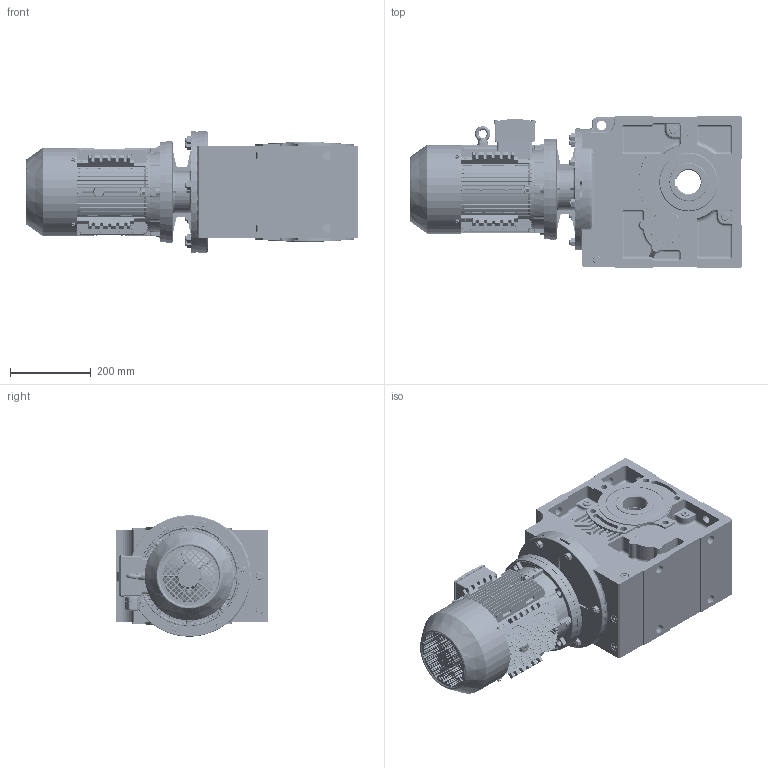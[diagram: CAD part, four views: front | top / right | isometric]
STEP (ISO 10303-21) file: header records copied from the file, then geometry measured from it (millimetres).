
FILE_DESCRIPTION (( 'STEP AP203' ), '1' );
FILE_NAME ('KV_573_0_MX3-112.STEP', '2018-11-21T09:39:33', ( '' ), ( '' ), 'SwSTEP 2.0', 'SolidWorks 2012', '' );
FILE_SCHEMA (( 'CONFIG_CONTROL_DESIGN' ));
Products named in the file (27): KV_573_0_MX3-112; DMX-IE3 112  cable glands_1; MX3-112_B5; DMX-IE3 112B5 flage; rivets for name plate gb_GB_OTHERRIVETS_TYPE93 2.5X5; hexagon flange head tapping screws gb_GB_SQUARE_AND_HEXAGON_TYPE137 ST4.8X9.5 C-N_1; eyebolts gb_GB_FASTENER_SCREWS_FRS M8-N_1; cross recessed pan head screws gb_GB_CROSS_SCREWS_TYPE1 M5X12-12  H type-N_1; DMX-IE3 112terminal box cover_1; DMX-IE3 112terminal box base_1; hexagon socket head cap screws gb_GB_FASTENER_SCREWS_HSHCS M8X40-N_1; plain parallel keys_GB_CONNECTING_PIECE_KEYS_CSK 8X50_1; DMX-IE3 112   fan cover_1; circlips for shaft--type a large gb_GB_CONNECTING_PIECE_RING_RRA 28_1; spring lock washers--normal type gb_GB_FASTENER_WASHER_SW 8_1; hexagon nuts grade c gb_GB_FASTENER_NUT_SNC1 M8-N_1; deep groove ball bearings gb_Rolling bearings 6206 GB 276-94_1; DMX-IE3 112 fan_1; DMX-IE3 oil seal_1; DMX-IE3 112M4  oil seal_1; DMX-IE3 112M4 casing_1; DMX-IE3 112 shaft_1; deep groove ball bearings gb_Rolling bearings 6306 GB 276-94_1; DMX-IE3 112 shield_1; ML59A_Varsayìlan; 53100B5_Varsayìlan; K573_Varsayìlan
Assembly tree (56 placements, depth 3):
  KV_573_0_MX3-112
    K573_Varsayìlan
    53100B5_Varsayìlan
    ML59A_Varsayìlan
    MX3-112_B5
      DMX-IE3 112M4 casing_1
      DMX-IE3 112 shaft_1
      DMX-IE3 112 shield_1
      deep groove ball bearings gb_Rolling bearings 6306 GB 276-94_1
      deep groove ball bearings gb_Rolling bearings 6206 GB 276-94_1
      DMX-IE3 112M4  oil seal_1
      DMX-IE3 oil seal_1
      DMX-IE3 112 fan_1
      circlips for shaft--type a large gb_GB_CONNECTING_PIECE_RING_RRA 28_1
      spring lock washers--normal type gb_GB_FASTENER_WASHER_SW 8_1  x8
      hexagon nuts grade c gb_GB_FASTENER_NUT_SNC1 M8-N_1  x8
      hexagon socket head cap screws gb_GB_FASTENER_SCREWS_HSHCS M8X40-N_1  x8
      DMX-IE3 112   fan cover_1
      plain parallel keys_GB_CONNECTING_PIECE_KEYS_CSK 8X50_1
      DMX-IE3 112terminal box base_1
      DMX-IE3 112terminal box cover_1
      cross recessed pan head screws gb_GB_CROSS_SCREWS_TYPE1 M5X12-12  H type-N_1  x4
      eyebolts gb_GB_FASTENER_SCREWS_FRS M8-N_1
      hexagon flange head tapping screws gb_GB_SQUARE_AND_HEXAGON_TYPE137 ST4.8X9.5 C-N_1  x5
      DMX-IE3 112  cable glands_1  x2
      DMX-IE3 112B5 flage
      rivets for name plate gb_GB_OTHERRIVETS_TYPE93 2.5X5  x2
Bounding box: 820.75 x 375 x 300 mm (x, y, z)
Volume: 31408415.6 mm3; surface area: 2821571.3 mm2
Topology: 55 solids, 61 shells, 8143 faces, 21029 edges, 12918 vertices
Faces by surface type: plane 2958, cylinder 2235, bspline 1654, cone 765, torus 355, sphere 176
Entity records: 293406 total; most frequent: CARTESIAN_POINT 117579, ORIENTED_EDGE 38390, DIRECTION 33031, EDGE_CURVE 19198, AXIS2_PLACEMENT_3D 12098, VERTEX_POINT 11909, VECTOR 8835, LINE 8835
